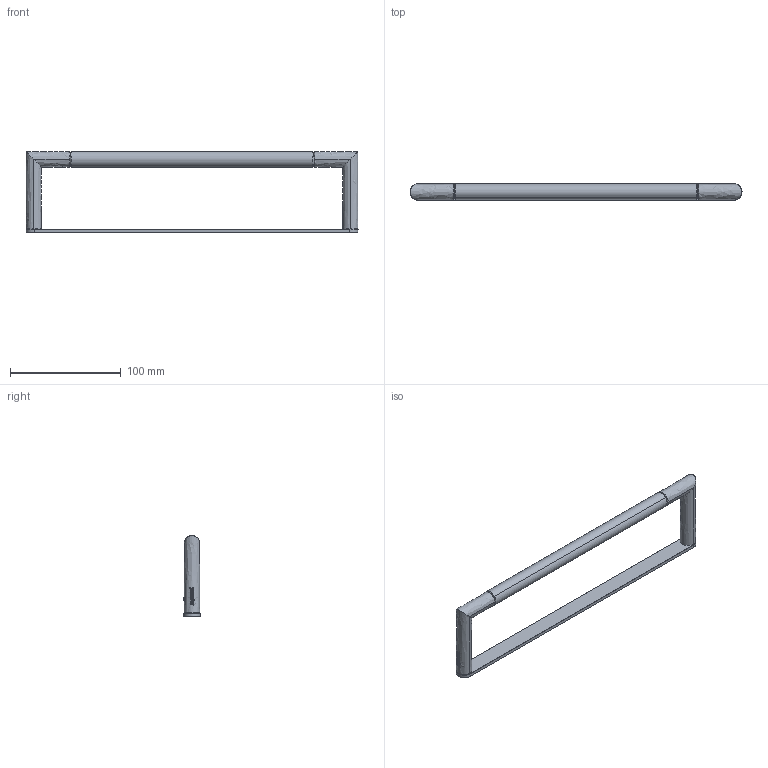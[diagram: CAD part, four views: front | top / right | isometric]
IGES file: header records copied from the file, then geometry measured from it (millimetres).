
Start section: SolidWorks IGES file using analytic representation for surfaces
Global section: file name: G:\Projects\New project\For Marketing\IGS\IGS\2015-12-11\471030002VW.IGS; native system: SolidWorks 2010; preprocessor: SolidWorks 2010; author: weijuan; date: 151210.115259; units: inch
Bounding box: 300 x 15 x 73 mm (x, y, z)
Surface area: 28993.6 mm2 (no closed solid volume)
Topology: 0 solids, 0 shells, 121 faces, 1503 edges, 1503 vertices
Faces by surface type: bspline 77, revolution 44
